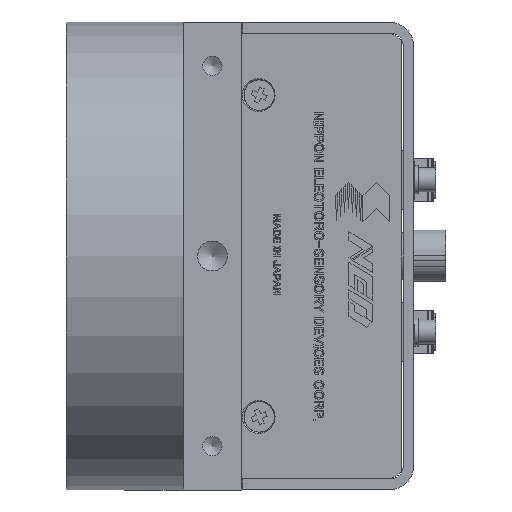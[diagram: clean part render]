
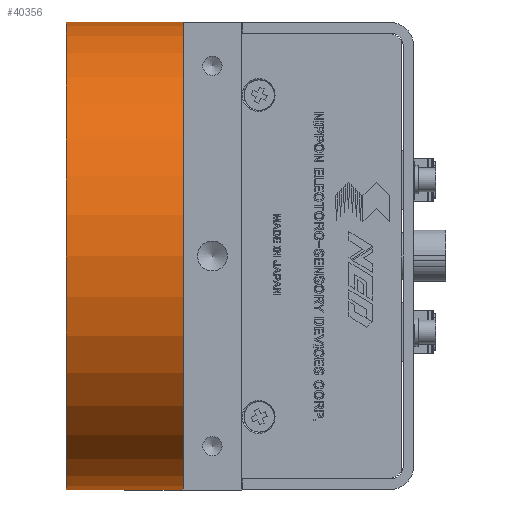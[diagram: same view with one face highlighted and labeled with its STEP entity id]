
A CAD part, front view. The second image highlights one B-rep face of the part: STEP entity #40356.
In plain terms, the highlighted cylindrical face has radius 40 mm (diameter 80 mm), a full revolution.
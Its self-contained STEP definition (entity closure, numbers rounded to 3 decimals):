
#3345 = CARTESIAN_POINT ( 'NONE',  ( 0., 0., 0. ) ) ;
#5416 = DIRECTION ( 'NONE',  ( -1., 0., 0. ) ) ;
#6972 = ORIENTED_EDGE ( 'NONE', *, *, #29238, .T. ) ;
#8039 = CIRCLE ( 'NONE', #98537, 40. ) ;
#8639 = EDGE_LOOP ( 'NONE', ( #149611 ) ) ;
#9074 = CARTESIAN_POINT ( 'NONE',  ( 0., 0., -40. ) ) ;
#12035 = AXIS2_PLACEMENT_3D ( 'NONE', #21853, #33881, #71909 ) ;
#16457 = DIRECTION ( 'NONE',  ( 0., 0., -1. ) ) ;
#21853 = CARTESIAN_POINT ( 'NONE',  ( 0., 0., 0. ) ) ;
#28828 = DIRECTION ( 'NONE',  ( 0., 0., -1. ) ) ;
#29171 = AXIS2_PLACEMENT_3D ( 'NONE', #113051, #39489, #52583 ) ;
#29238 = EDGE_CURVE ( 'NONE', #127780, #104208, #91892, .T. ) ;
#29283 = CYLINDRICAL_SURFACE ( 'NONE', #29171, 40. ) ;
#33038 = FACE_OUTER_BOUND ( 'NONE', #8639, .T. ) ;
#33881 = DIRECTION ( 'NONE',  ( -1., 0., 0. ) ) ;
#37707 = EDGE_CURVE ( 'NONE', #134780, #134780, #8039, .T. ) ;
#39489 = DIRECTION ( 'NONE',  ( -1., 0., 0. ) ) ;
#40356 = ADVANCED_FACE ( 'NONE', ( #137791, #33038 ), #29283, .T. ) ;
#40430 = ORIENTED_EDGE ( 'NONE', *, *, #103734, .T. ) ;
#48615 = CARTESIAN_POINT ( 'NONE',  ( -20., 0., -40. ) ) ;
#52581 = AXIS2_PLACEMENT_3D ( 'NONE', #3345, #5416, #16457 ) ;
#52583 = DIRECTION ( 'NONE',  ( 0., 0., 1. ) ) ;
#71909 = DIRECTION ( 'NONE',  ( 0., 0., -1. ) ) ;
#72498 = EDGE_LOOP ( 'NONE', ( #40430, #6972 ) ) ;
#78591 = CARTESIAN_POINT ( 'NONE',  ( 0., 0., 40. ) ) ;
#91892 = CIRCLE ( 'NONE', #52581, 40. ) ;
#98537 = AXIS2_PLACEMENT_3D ( 'NONE', #124985, #149530, #28828 ) ;
#103734 = EDGE_CURVE ( 'NONE', #104208, #127780, #152466, .T. ) ;
#104208 = VERTEX_POINT ( 'NONE', #78591 ) ;
#113051 = CARTESIAN_POINT ( 'NONE',  ( 0., 0., 0. ) ) ;
#124985 = CARTESIAN_POINT ( 'NONE',  ( -20., 0., 0. ) ) ;
#127780 = VERTEX_POINT ( 'NONE', #9074 ) ;
#134780 = VERTEX_POINT ( 'NONE', #48615 ) ;
#137791 = FACE_OUTER_BOUND ( 'NONE', #72498, .T. ) ;
#149530 = DIRECTION ( 'NONE',  ( 1., 0., 0. ) ) ;
#149611 = ORIENTED_EDGE ( 'NONE', *, *, #37707, .T. ) ;
#152466 = CIRCLE ( 'NONE', #12035, 40. ) ;
